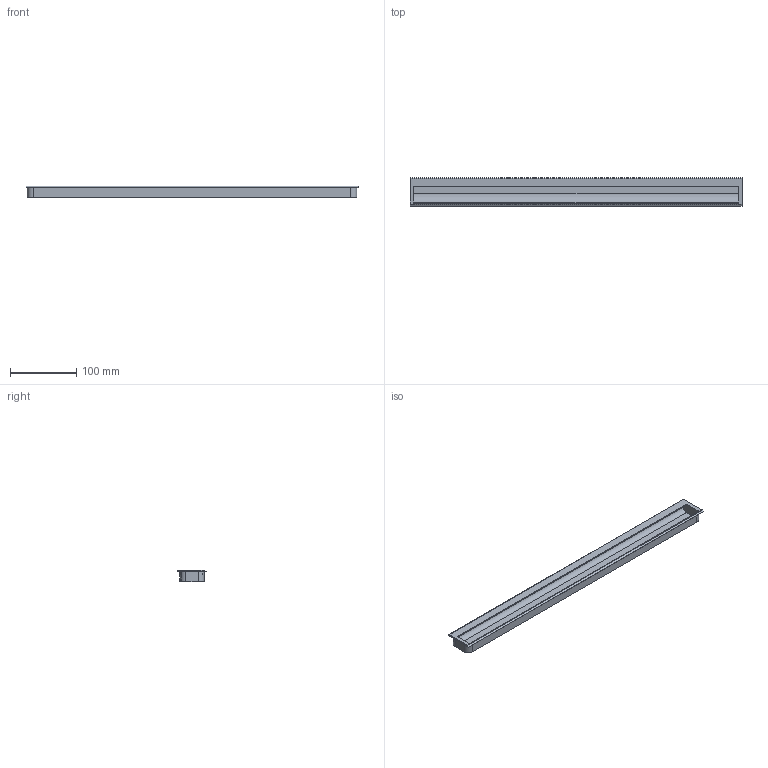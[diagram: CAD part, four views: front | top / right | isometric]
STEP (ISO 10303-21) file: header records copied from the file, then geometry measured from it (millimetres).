
FILE_DESCRIPTION( ( '' ), '1' );
FILE_NAME( 'D:/temp/hettich_stp/hettich/prodecor_handles/new_modern/115307.stp', '2013-02-26T12:42:11', ( '' ), ( '' ), ' ', ' ', ' ' );
FILE_SCHEMA( ( 'automotive_design' ) );
Length unit declared in the file: millimetre
Products named in the file (1): 1
Bounding box: 500 x 43 x 17.5 mm (x, y, z)
Volume: 112402.8 mm3; surface area: 80821.3 mm2
Topology: 1 solids, 1 shells, 48 faces, 127 edges, 84 vertices
Faces by surface type: plane 27, cylinder 21
Entity records: 2966 total; most frequent: DIRECTION 273, STYLED_ITEM 260, PRESENTATION_STYLE_ASSIGNMENT 260, CARTESIAN_POINT 260, COLOUR_RGB 260, ORIENTED_EDGE 254, EDGE_CURVE 127, CURVE_STYLE 127
